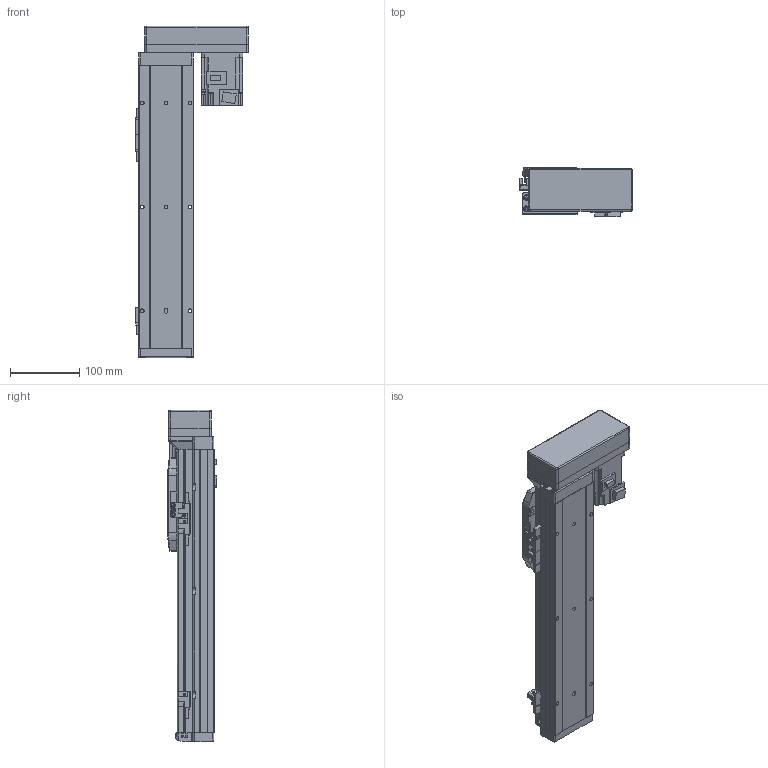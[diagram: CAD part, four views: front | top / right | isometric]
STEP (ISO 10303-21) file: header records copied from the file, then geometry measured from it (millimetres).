
FILE_DESCRIPTION (( 'STEP AP214' ), '1' );
FILE_NAME ('GSH8-250-BL-M20-1.step', '2025-01-07T06:05:20', ( '' ), ( '' ), 'SwSTEP 2.0', 'SolidWorks 2012', '' );
FILE_SCHEMA (( 'AUTOMOTIVE_DESIGN' ));
Length unit declared in the file: millimetre
Products named in the file (5): GSH8-BL-008; HG-KR23_200W_Motor; GSH8-BL-011-250-M20; GSH8-250-BL-M20-1; GSH8-GY-004
Assembly tree (4 placements, depth 2):
  GSH8-250-BL-M20-1
    GSH8-BL-011-250-M20
    GSH8-GY-004
    GSH8-BL-008
    HG-KR23_200W_Motor
Bounding box: 163 x 71.3 x 478.2 mm (x, y, z)
Volume: 1550822 mm3; surface area: 344614.7 mm2
Topology: 4 solids, 8 shells, 1088 faces, 2837 edges, 1822 vertices
Faces by surface type: plane 624, cylinder 368, torus 42, cone 26, bspline 24, sphere 4
Entity records: 42739 total; most frequent: CARTESIAN_POINT 9696, DIRECTION 5753, ORIENTED_EDGE 5658, EDGE_CURVE 2829, AXIS2_PLACEMENT_3D 1931, VECTOR 1891, LINE 1891, VERTEX_POINT 1818
